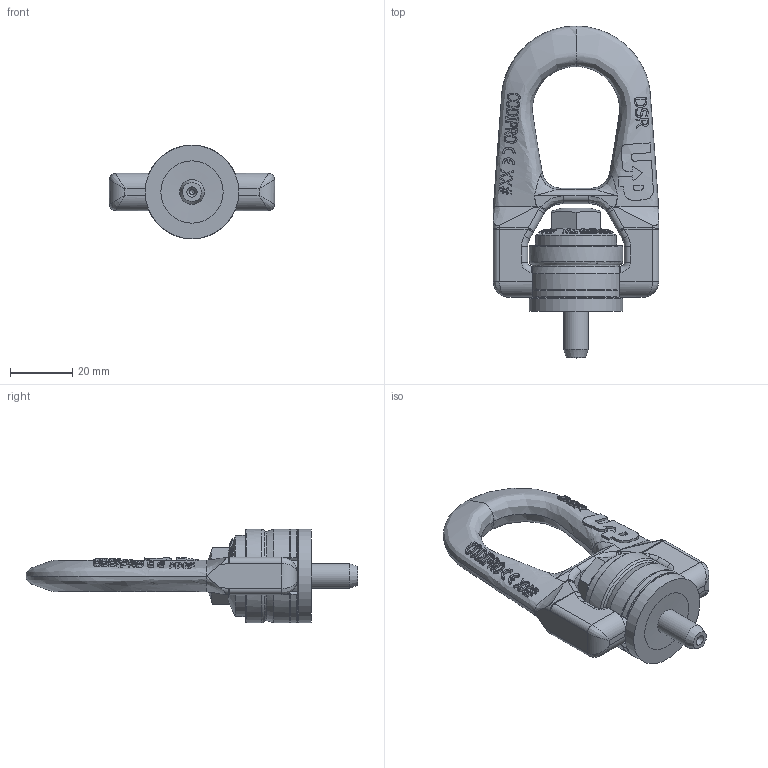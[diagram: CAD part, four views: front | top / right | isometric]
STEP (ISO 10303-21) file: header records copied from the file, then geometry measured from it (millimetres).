
FILE_DESCRIPTION(/* description */ (''),/* implementation_level */ '2;1');
FILE_NAME(/* name */ 'W:\CODIPRO\DOCUMENTS\Plans A NE PAS DIFFUSER !!!\Fichiers STEP\Gamme 2018\Produits GRADUP\DSR UP\DSR U516 UP.stp',/* time_stamp */ '2018-03-07T13:43:26+01:00',/* author */ ('rklenes'),/* organization */ (''),/* preprocessor_version */ 'ST-DEVELOPER v16.5',/* originating_system */ 'Autodesk Inventor 2017',/* authorisation */ '');
FILE_SCHEMA (('AUTOMOTIVE_DESIGN { 1 0 10303 214 3 1 1 }'));
Products named in the file (6): DSR U516 UP; DSR 1; DRB_B1B; DRM_AF1B_UP; DRA_U5-16X36_UP; DRE_D1M8A
Assembly tree (5 placements, depth 3):
  DSR U516 UP
    DSR 1
      DRB_B1B
      DRM_AF1B_UP
    DRA_U5-16X36_UP
    DRE_D1M8A
Bounding box: 53 x 106.5 x 30 mm (x, y, z)
Volume: 38864.3 mm3; surface area: 17772.4 mm2
Topology: 4 solids, 4 shells, 877 faces, 2316 edges, 1497 vertices
Faces by surface type: plane 382, bspline 328, cylinder 90, cone 57, torus 19, sphere 1
Full cylindrical faces by diameter (mm): 1.6 x1, 8 x3, 8.2 x1, 10 x2, 14.7 x2, 15 x2, 22 x1, 26 x1, 30 x2
Entity records: 46592 total; most frequent: CARTESIAN_POINT 27501, ORIENTED_EDGE 4528, DIRECTION 2876, EDGE_CURVE 2264, VERTEX_POINT 1488, AXIS2_PLACEMENT_3D 1000, EDGE_LOOP 976, FACE_OUTER_BOUND 877
